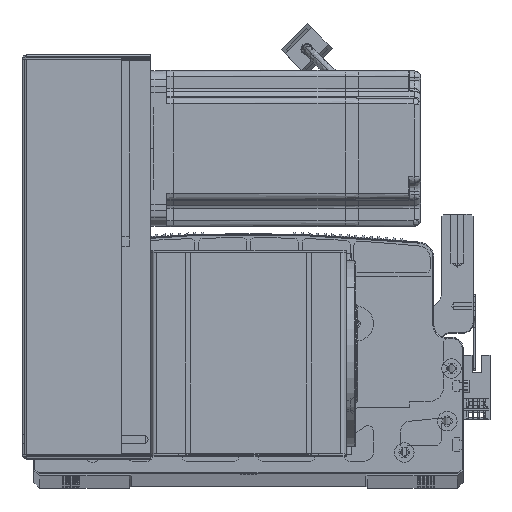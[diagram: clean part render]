
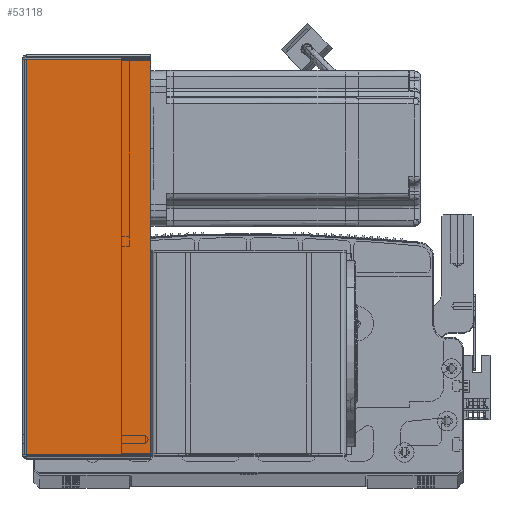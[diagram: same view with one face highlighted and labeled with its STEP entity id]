
A CAD part, top view. The second image highlights one B-rep face of the part: STEP entity #53118.
In plain terms, the highlighted planar face has unit normal (0, 0, 1) as drawn and (0, 1, 0) by its records, which use the part's own axes.
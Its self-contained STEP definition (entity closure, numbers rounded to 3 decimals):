
#167 = FACE_OUTER_BOUND ( 'NONE', #58887, .T. ) ;
#7652 = ORIENTED_EDGE ( 'NONE', *, *, #70978, .T. ) ;
#12222 = DIRECTION ( 'NONE',  ( 0., 0., -1. ) ) ;
#15088 = VERTEX_POINT ( 'NONE', #80645 ) ;
#16208 = VECTOR ( 'NONE', #98319, 1000. ) ;
#17225 = ORIENTED_EDGE ( 'NONE', *, *, #60390, .T. ) ;
#20272 = VECTOR ( 'NONE', #87178, 1000. ) ;
#20434 = EDGE_CURVE ( 'NONE', #100817, #30440, #93408, .T. ) ;
#24821 = ORIENTED_EDGE ( 'NONE', *, *, #41465, .F. ) ;
#26354 = CARTESIAN_POINT ( 'NONE',  ( 64.5, 107.5, -204. ) ) ;
#28049 = DIRECTION ( 'NONE',  ( 1., 0., 0. ) ) ;
#30440 = VERTEX_POINT ( 'NONE', #79855 ) ;
#35291 = LINE ( 'NONE', #103310, #20272 ) ;
#35714 = CARTESIAN_POINT ( 'NONE',  ( 0., 107.5, -0.707 ) ) ;
#37460 = LINE ( 'NONE', #26354, #16208 ) ;
#38308 = CARTESIAN_POINT ( 'NONE',  ( 0.737, 107.5, -0.707 ) ) ;
#39017 = ORIENTED_EDGE ( 'NONE', *, *, #20434, .F. ) ;
#41465 = EDGE_CURVE ( 'NONE', #30440, #46042, #35291, .T. ) ;
#46042 = VERTEX_POINT ( 'NONE', #92713 ) ;
#48053 = AXIS2_PLACEMENT_3D ( 'NONE', #73112, #48280, #72752 ) ;
#48280 = DIRECTION ( 'NONE',  ( 0., -1., 0. ) ) ;
#53118 = ADVANCED_FACE ( 'NONE', ( #167 ), #64734, .F. ) ;
#58887 = EDGE_LOOP ( 'NONE', ( #39017, #7652, #17225, #24821 ) ) ;
#60161 = CARTESIAN_POINT ( 'NONE',  ( 0.737, 107.5, 0. ) ) ;
#60390 = EDGE_CURVE ( 'NONE', #15088, #46042, #37460, .T. ) ;
#61242 = VECTOR ( 'NONE', #28049, 1000. ) ;
#64734 = PLANE ( 'NONE',  #48053 ) ;
#70978 = EDGE_CURVE ( 'NONE', #100817, #15088, #84930, .T. ) ;
#72752 = DIRECTION ( 'NONE',  ( 1., 0., 0. ) ) ;
#73112 = CARTESIAN_POINT ( 'NONE',  ( 0., 107.5, 0. ) ) ;
#79855 = CARTESIAN_POINT ( 'NONE',  ( 0.737, 107.5, -203.293 ) ) ;
#80645 = CARTESIAN_POINT ( 'NONE',  ( 64.5, 107.5, -0.707 ) ) ;
#84930 = LINE ( 'NONE', #35714, #61242 ) ;
#87178 = DIRECTION ( 'NONE',  ( 1., 0., 0. ) ) ;
#92713 = CARTESIAN_POINT ( 'NONE',  ( 64.5, 107.5, -203.293 ) ) ;
#93408 = LINE ( 'NONE', #60161, #100953 ) ;
#98319 = DIRECTION ( 'NONE',  ( 0., 0., -1. ) ) ;
#100817 = VERTEX_POINT ( 'NONE', #38308 ) ;
#100953 = VECTOR ( 'NONE', #12222, 1000. ) ;
#103310 = CARTESIAN_POINT ( 'NONE',  ( 0., 107.5, -203.293 ) ) ;
